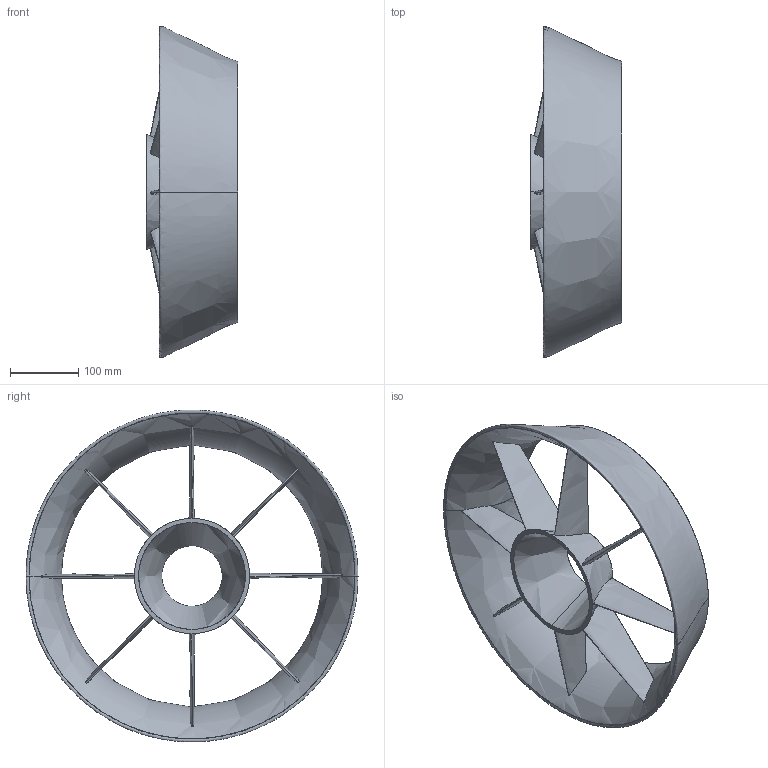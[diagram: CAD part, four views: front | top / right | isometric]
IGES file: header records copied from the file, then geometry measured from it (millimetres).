
Start section: SolidWorks IGES FILE using NURB representation for surfaces
Global section: file name: D:\Projects\altex\drawings\ductprop\colstruct.IGS; native system: SolidWorks 98Plus by SolidWorks Corporation; preprocessor: Version 3.0; author: grma; date: 990824.152211; units: inch
Bounding box: 133.79 x 487.96 x 487.94 mm (x, y, z)
Surface area: 544587.2 mm2 (no closed solid volume)
Topology: 0 solids, 0 shells, 26 faces, 1296 edges, 1294 vertices
Faces by surface type: bspline 26
